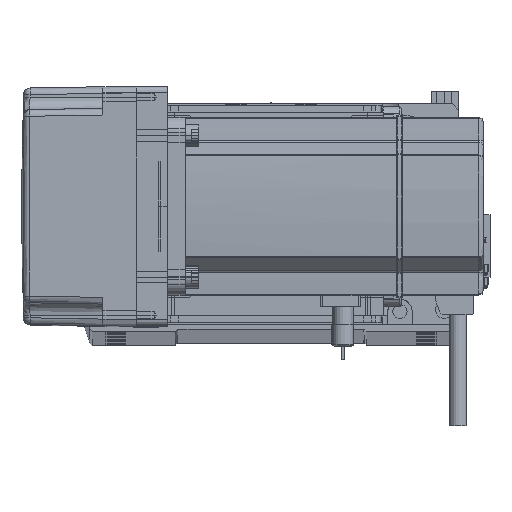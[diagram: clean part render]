
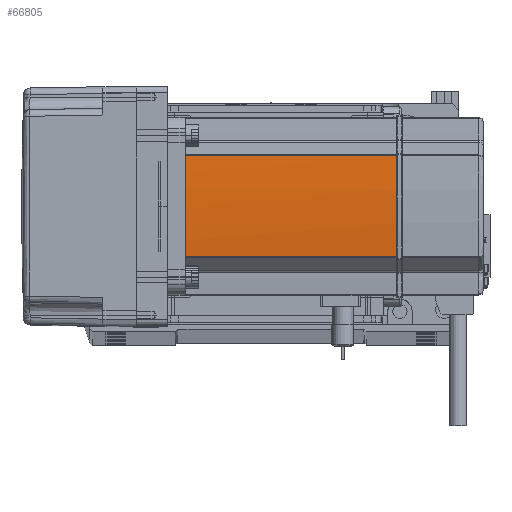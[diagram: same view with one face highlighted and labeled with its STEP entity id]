
A CAD part, top view. The second image highlights one B-rep face of the part: STEP entity #66805.
In plain terms, the highlighted cylindrical face has radius 270 mm (diameter 540 mm), a partial arc.
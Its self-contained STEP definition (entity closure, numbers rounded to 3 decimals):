
#4190 = AXIS2_PLACEMENT_3D ( 'NONE', #22359, #59528, #28074 ) ;
#5718 = DIRECTION ( 'NONE',  ( -1., 0., 0. ) ) ;
#5801 = EDGE_CURVE ( 'NONE', #28520, #66017, #58931, .T. ) ;
#9546 = AXIS2_PLACEMENT_3D ( 'NONE', #42154, #37081, #5718 ) ;
#11146 = CARTESIAN_POINT ( 'NONE',  ( -230., 0., 58. ) ) ;
#12173 = AXIS2_PLACEMENT_3D ( 'NONE', #18354, #33836, #44593 ) ;
#13012 = CARTESIAN_POINT ( 'NONE',  ( 40., -0.042, 134. ) ) ;
#15616 = CIRCLE ( 'NONE', #9546, 270. ) ;
#18354 = CARTESIAN_POINT ( 'NONE',  ( -230., 0., 134. ) ) ;
#18627 = EDGE_LOOP ( 'NONE', ( #40252, #52154, #43613, #41517, #20629, #67495 ) ) ;
#19173 = LINE ( 'NONE', #32778, #50446 ) ;
#20261 = EDGE_CURVE ( 'NONE', #63526, #66017, #19173, .T. ) ;
#20629 = ORIENTED_EDGE ( 'NONE', *, *, #34582, .F. ) ;
#22359 = CARTESIAN_POINT ( 'NONE',  ( -230., 0., 39. ) ) ;
#22389 = CARTESIAN_POINT ( 'NONE',  ( 39.042, 22.724, 39. ) ) ;
#24053 = CARTESIAN_POINT ( 'NONE',  ( 40., 0.042, 134. ) ) ;
#25268 = DIRECTION ( 'NONE',  ( 0., 0., 1. ) ) ;
#25856 = CARTESIAN_POINT ( 'NONE',  ( 39.042, -22.724, 134. ) ) ;
#27086 = CARTESIAN_POINT ( 'NONE',  ( 40., -0.127, 134. ) ) ;
#27125 = EDGE_CURVE ( 'NONE', #28520, #36712, #38549, .T. ) ;
#28074 = DIRECTION ( 'NONE',  ( -1., 0., 0. ) ) ;
#28520 = VERTEX_POINT ( 'NONE', #22389 ) ;
#30485 = CIRCLE ( 'NONE', #12173, 270. ) ;
#32778 = CARTESIAN_POINT ( 'NONE',  ( 39.042, -22.724, 58. ) ) ;
#33836 = DIRECTION ( 'NONE',  ( 0., 0., -1. ) ) ;
#34582 = EDGE_CURVE ( 'NONE', #45141, #62519, #63943, .T. ) ;
#35889 = FACE_OUTER_BOUND ( 'NONE', #18627, .T. ) ;
#36712 = VERTEX_POINT ( 'NONE', #56714 ) ;
#37081 = DIRECTION ( 'NONE',  ( 0., 0., -1. ) ) ;
#38549 = LINE ( 'NONE', #45521, #59086 ) ;
#40252 = ORIENTED_EDGE ( 'NONE', *, *, #20261, .T. ) ;
#41517 = ORIENTED_EDGE ( 'NONE', *, *, #51667, .T. ) ;
#42154 = CARTESIAN_POINT ( 'NONE',  ( -230., 0., 134. ) ) ;
#42253 = DIRECTION ( 'NONE',  ( 0., 0., -1. ) ) ;
#43613 = ORIENTED_EDGE ( 'NONE', *, *, #27125, .T. ) ;
#44545 = CARTESIAN_POINT ( 'NONE',  ( 40., 0.127, 134. ) ) ;
#44593 = DIRECTION ( 'NONE',  ( -1., 0., 0. ) ) ;
#45141 = VERTEX_POINT ( 'NONE', #27086 ) ;
#45521 = CARTESIAN_POINT ( 'NONE',  ( 39.042, 22.724, 58. ) ) ;
#46229 = CARTESIAN_POINT ( 'NONE',  ( 39.042, -22.724, 39. ) ) ;
#46481 = CYLINDRICAL_SURFACE ( 'NONE', #64078, 270. ) ;
#50446 = VECTOR ( 'NONE', #53654, 1000. ) ;
#51381 = EDGE_CURVE ( 'NONE', #45141, #63526, #30485, .T. ) ;
#51667 = EDGE_CURVE ( 'NONE', #36712, #62519, #15616, .T. ) ;
#52154 = ORIENTED_EDGE ( 'NONE', *, *, #5801, .F. ) ;
#53654 = DIRECTION ( 'NONE',  ( 0., 0., -1. ) ) ;
#56714 = CARTESIAN_POINT ( 'NONE',  ( 39.042, 22.724, 134. ) ) ;
#58931 = CIRCLE ( 'NONE', #4190, 270. ) ;
#59086 = VECTOR ( 'NONE', #25268, 1000. ) ;
#59528 = DIRECTION ( 'NONE',  ( 0., 0., -1. ) ) ;
#60389 = CARTESIAN_POINT ( 'NONE',  ( 40., -0.127, 134. ) ) ;
#62519 = VERTEX_POINT ( 'NONE', #65961 ) ;
#63526 = VERTEX_POINT ( 'NONE', #25856 ) ;
#63943 = B_SPLINE_CURVE_WITH_KNOTS ( 'NONE', 3,
 ( #60389, #13012, #24053, #44545 ),
 .UNSPECIFIED., .F., .F.,
 ( 4, 4 ),
 ( 0., 1. ),
 .UNSPECIFIED. ) ;
#64078 = AXIS2_PLACEMENT_3D ( 'NONE', #11146, #42253, #64904 ) ;
#64904 = DIRECTION ( 'NONE',  ( -1., 0., 0. ) ) ;
#65961 = CARTESIAN_POINT ( 'NONE',  ( 40., 0.127, 134. ) ) ;
#66017 = VERTEX_POINT ( 'NONE', #46229 ) ;
#66805 = ADVANCED_FACE ( 'NONE', ( #35889 ), #46481, .T. ) ;
#67495 = ORIENTED_EDGE ( 'NONE', *, *, #51381, .T. ) ;
